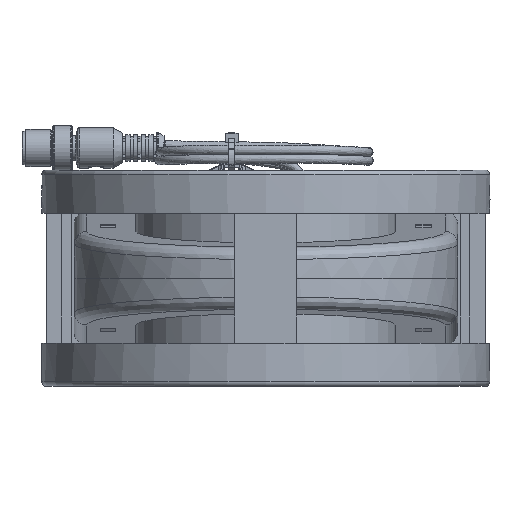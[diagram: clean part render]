
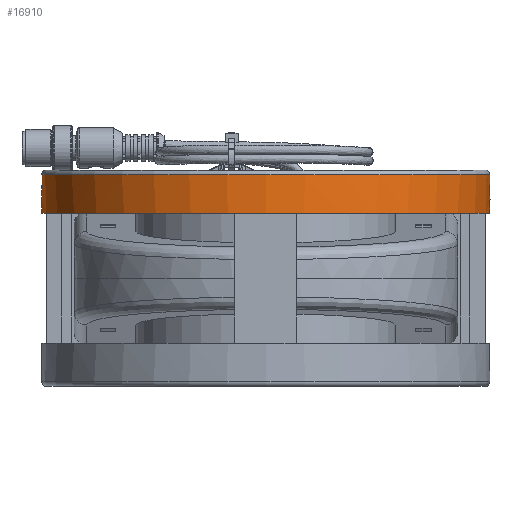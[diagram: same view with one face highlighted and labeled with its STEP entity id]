
A CAD part, front view. The second image highlights one B-rep face of the part: STEP entity #16910.
In plain terms, the highlighted cylindrical face has radius 72.5 mm (diameter 145 mm), a full revolution.
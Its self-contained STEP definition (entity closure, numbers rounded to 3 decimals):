
#3385=CIRCLE('',#43218,72.5);
#3386=CIRCLE('',#43222,72.5);
#3387=CIRCLE('',#43224,72.5);
#3388=CIRCLE('',#43226,72.5);
#16910=ADVANCED_FACE('',(#19403,#19404,#19405,#19406),#18783,.T.);
#18783=CYLINDRICAL_SURFACE('',#43228,72.5);
#19403=FACE_BOUND('',#20379,.T.);
#19404=FACE_BOUND('',#20380,.T.);
#19405=FACE_BOUND('',#20381,.T.);
#19406=FACE_BOUND('',#20382,.T.);
#20379=EDGE_LOOP('',(#24711,#24712,#24713));
#20380=EDGE_LOOP('',(#24714,#24715,#24716));
#20381=EDGE_LOOP('',(#24717));
#20382=EDGE_LOOP('',(#24718,#24719));
#24711=ORIENTED_EDGE('',*,*,#38283,.F.);
#24712=ORIENTED_EDGE('',*,*,#38284,.F.);
#24713=ORIENTED_EDGE('',*,*,#38285,.F.);
#24714=ORIENTED_EDGE('',*,*,#38286,.F.);
#24715=ORIENTED_EDGE('',*,*,#38287,.F.);
#24716=ORIENTED_EDGE('',*,*,#38288,.F.);
#24717=ORIENTED_EDGE('',*,*,#38289,.T.);
#24718=ORIENTED_EDGE('',*,*,#38281,.F.);
#24719=ORIENTED_EDGE('',*,*,#38290,.T.);
#34329=VERTEX_POINT('',#61054);
#34330=VERTEX_POINT('',#61055);
#34331=VERTEX_POINT('',#61059);
#34332=VERTEX_POINT('',#61060);
#34333=VERTEX_POINT('',#61062);
#34334=VERTEX_POINT('',#61065);
#34335=VERTEX_POINT('',#61066);
#34336=VERTEX_POINT('',#61068);
#34337=VERTEX_POINT('',#61071);
#38281=EDGE_CURVE('',#34329,#34330,#3385,.T.);
#38283=EDGE_CURVE('',#34331,#34332,#42711,.T.);
#38284=EDGE_CURVE('',#34333,#34331,#42712,.T.);
#38285=EDGE_CURVE('',#34332,#34333,#3386,.T.);
#38286=EDGE_CURVE('',#34334,#34335,#42713,.T.);
#38287=EDGE_CURVE('',#34336,#34334,#3387,.T.);
#38288=EDGE_CURVE('',#34335,#34336,#42714,.T.);
#38289=EDGE_CURVE('',#34337,#34337,#3388,.T.);
#38290=EDGE_CURVE('',#34329,#34330,#42715,.T.);
#42711=ELLIPSE('',#43220,145.,72.5);
#42712=ELLIPSE('',#43221,145.,72.5);
#42713=ELLIPSE('',#43223,145.,72.5);
#42714=ELLIPSE('',#43225,145.,72.5);
#42715=ELLIPSE('',#43227,72.777,72.5);
#43218=AXIS2_PLACEMENT_3D('',#61053,#47655,#47656);
#43220=AXIS2_PLACEMENT_3D('',#61058,#47660,#47661);
#43221=AXIS2_PLACEMENT_3D('',#61061,#47662,#47663);
#43222=AXIS2_PLACEMENT_3D('',#61063,#47664,#47665);
#43223=AXIS2_PLACEMENT_3D('',#61064,#47666,#47667);
#43224=AXIS2_PLACEMENT_3D('',#61067,#47668,#47669);
#43225=AXIS2_PLACEMENT_3D('',#61069,#47670,#47671);
#43226=AXIS2_PLACEMENT_3D('',#61070,#47672,#47673);
#43227=AXIS2_PLACEMENT_3D('',#61072,#47674,#47675);
#43228=AXIS2_PLACEMENT_3D('',#61073,#47676,#47677);
#47655=DIRECTION('',(-1.,0.,0.));
#47656=DIRECTION('',(0.,1.,0.));
#47660=DIRECTION('',(0.5,-0.866,0.));
#47661=DIRECTION('',(-0.866,-0.5,0.));
#47662=DIRECTION('',(0.5,0.866,0.));
#47663=DIRECTION('',(-0.866,0.5,0.));
#47664=DIRECTION('',(-1.,0.,0.));
#47665=DIRECTION('',(0.,1.,0.));
#47666=DIRECTION('',(0.5,-0.866,0.));
#47667=DIRECTION('',(-0.866,-0.5,0.));
#47668=DIRECTION('',(-1.,0.,0.));
#47669=DIRECTION('',(0.,1.,0.));
#47670=DIRECTION('',(0.5,0.866,0.));
#47671=DIRECTION('',(-0.866,0.5,0.));
#47672=DIRECTION('',(-1.,0.,0.));
#47673=DIRECTION('',(0.,1.,0.));
#47674=DIRECTION('',(0.996,-0.087,0.));
#47675=DIRECTION('',(-0.087,-0.996,0.));
#47676=DIRECTION('',(-1.,0.,0.));
#47677=DIRECTION('',(0.,1.,0.));
#61053=CARTESIAN_POINT('',(21.,0.,0.));
#61054=CARTESIAN_POINT('',(21.,66.785,-28.214));
#61055=CARTESIAN_POINT('',(21.,66.785,28.214));
#61058=CARTESIAN_POINT('',(25.5,0.,0.));
#61059=CARTESIAN_POINT('',(25.5,0.,-72.5));
#61060=CARTESIAN_POINT('',(30.,2.598,-72.453));
#61061=CARTESIAN_POINT('',(25.5,0.,0.));
#61062=CARTESIAN_POINT('',(30.,-2.598,-72.453));
#61063=CARTESIAN_POINT('',(30.,0.,0.));
#61064=CARTESIAN_POINT('',(25.5,0.,0.));
#61065=CARTESIAN_POINT('',(30.,2.598,72.453));
#61066=CARTESIAN_POINT('',(25.5,0.,72.5));
#61067=CARTESIAN_POINT('',(30.,0.,0.));
#61068=CARTESIAN_POINT('',(30.,-2.598,72.453));
#61069=CARTESIAN_POINT('',(25.5,0.,0.));
#61070=CARTESIAN_POINT('',(33.5,0.,0.));
#61071=CARTESIAN_POINT('',(33.5,72.5,0.));
#61072=CARTESIAN_POINT('',(15.157,0.,0.));
#61073=CARTESIAN_POINT('',(13.6,0.,0.));
